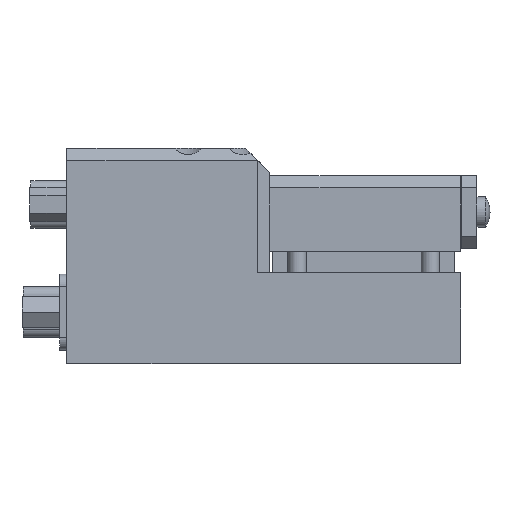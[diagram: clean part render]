
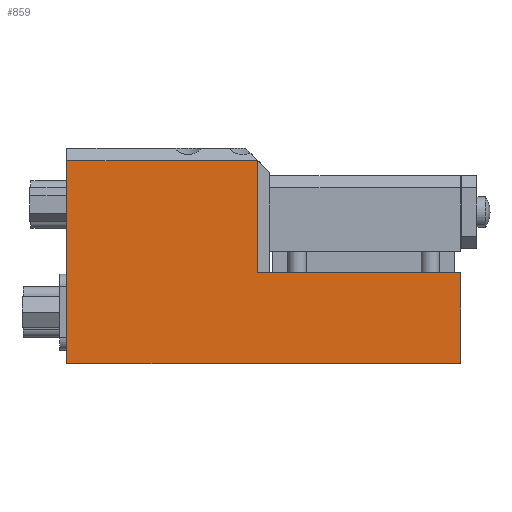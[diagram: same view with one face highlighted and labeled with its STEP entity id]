
A CAD part, front view. The second image highlights one B-rep face of the part: STEP entity #859.
In plain terms, the highlighted planar face has unit normal (0, -1, 0).
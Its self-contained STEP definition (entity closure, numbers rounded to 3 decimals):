
#859 = ADVANCED_FACE( '', ( #2000 ), #2001, .T. );
#2000 = FACE_OUTER_BOUND( '', #3339, .T. );
#2001 = PLANE( '', #3340 );
#3339 = EDGE_LOOP( '', ( #7026, #7027, #7028, #7029, #7030, #7031 ) );
#3340 = AXIS2_PLACEMENT_3D( '', #7032, #7033, #7034 );
#7026 = ORIENTED_EDGE( '', *, *, #8322, .T. );
#7027 = ORIENTED_EDGE( '', *, *, #8270, .T. );
#7028 = ORIENTED_EDGE( '', *, *, #8810, .T. );
#7029 = ORIENTED_EDGE( '', *, *, #8811, .T. );
#7030 = ORIENTED_EDGE( '', *, *, #8812, .T. );
#7031 = ORIENTED_EDGE( '', *, *, #8807, .F. );
#7032 = CARTESIAN_POINT( '', ( 0., -20., -7.5 ) );
#7033 = DIRECTION( '', ( 0., -1., 0. ) );
#7034 = DIRECTION( '', ( -1., 0., 0. ) );
#8270 = EDGE_CURVE( '', #10139, #10143, #10145, .T. );
#8322 = EDGE_CURVE( '', #10228, #10139, #10229, .T. );
#8807 = EDGE_CURVE( '', #10228, #11043, #11045, .F. );
#8810 = EDGE_CURVE( '', #10143, #11050, #11051, .T. );
#8811 = EDGE_CURVE( '', #11050, #11052, #11053, .F. );
#8812 = EDGE_CURVE( '', #11052, #11043, #11054, .T. );
#10139 = VERTEX_POINT( '', #12551 );
#10143 = VERTEX_POINT( '', #12557 );
#10145 = LINE( '', #12560, #12561 );
#10228 = VERTEX_POINT( '', #12681 );
#10229 = LINE( '', #12682, #12683 );
#11043 = VERTEX_POINT( '', #13920 );
#11045 = LINE( '', #13923, #13924 );
#11050 = VERTEX_POINT( '', #13929 );
#11051 = LINE( '', #13930, #13931 );
#11052 = VERTEX_POINT( '', #13932 );
#11053 = LINE( '', #13933, #13934 );
#11054 = LINE( '', #13935, #13936 );
#12551 = CARTESIAN_POINT( '', ( -1., -20., 7.5 ) );
#12557 = CARTESIAN_POINT( '', ( -1., -20., 26. ) );
#12560 = CARTESIAN_POINT( '', ( -1., -20., 7.5 ) );
#12561 = VECTOR( '', #15070, 1000. );
#12681 = CARTESIAN_POINT( '', ( 32.5, -20., 7.5 ) );
#12682 = CARTESIAN_POINT( '', ( 0., -20., 7.5 ) );
#12683 = VECTOR( '', #15150, 1000. );
#13920 = CARTESIAN_POINT( '', ( 32.5, -20., -7.5 ) );
#13923 = CARTESIAN_POINT( '', ( 32.5, -20., -7.5 ) );
#13924 = VECTOR( '', #15755, 1000. );
#13929 = CARTESIAN_POINT( '', ( -32.5, -20., 26. ) );
#13930 = CARTESIAN_POINT( '', ( -15.75, -20., 26. ) );
#13931 = VECTOR( '', #15762, 1000. );
#13932 = CARTESIAN_POINT( '', ( -32.5, -20., -7.5 ) );
#13933 = CARTESIAN_POINT( '', ( -32.5, -20., -7.5 ) );
#13934 = VECTOR( '', #15763, 1000. );
#13935 = CARTESIAN_POINT( '', ( 0., -20., -7.5 ) );
#13936 = VECTOR( '', #15764, 1000. );
#15070 = DIRECTION( '', ( 0., 0., 1. ) );
#15150 = DIRECTION( '', ( -1., 0., 0. ) );
#15755 = DIRECTION( '', ( 0., 0., 1. ) );
#15762 = DIRECTION( '', ( -1., 0., 0. ) );
#15763 = DIRECTION( '', ( 0., 0., 1. ) );
#15764 = DIRECTION( '', ( 1., 0., 0. ) );
